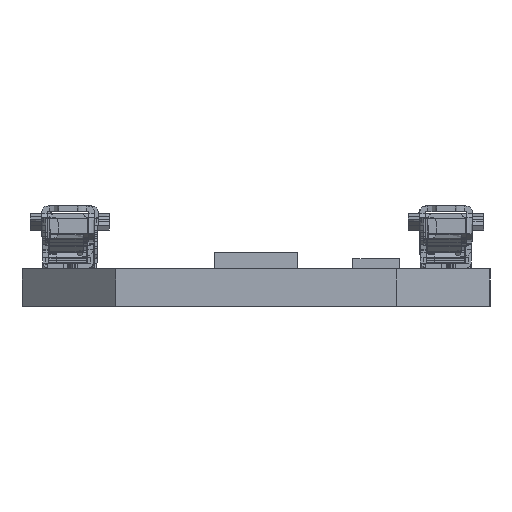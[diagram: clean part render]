
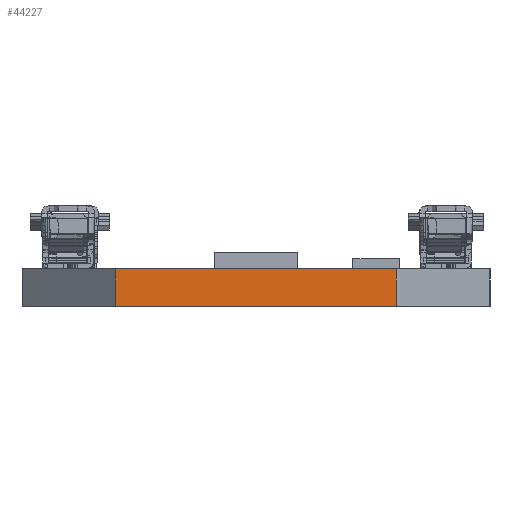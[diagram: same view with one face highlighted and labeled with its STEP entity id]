
A CAD part, left-side view. The second image highlights one B-rep face of the part: STEP entity #44227.
In plain terms, the highlighted planar face has unit normal (-1, 0, 0).
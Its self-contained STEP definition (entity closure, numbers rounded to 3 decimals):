
#2649 = LINE ( 'NONE', #66053, #23799 ) ;
#3577 = EDGE_CURVE ( 'NONE', #9305, #8764, #6561, .T. ) ;
#4914 = ORIENTED_EDGE ( 'NONE', *, *, #17841, .F. ) ;
#6217 = CARTESIAN_POINT ( 'NONE',  ( 0., 16., -1.6 ) ) ;
#6561 = LINE ( 'NONE', #81931, #32032 ) ;
#8764 = VERTEX_POINT ( 'NONE', #63085 ) ;
#9305 = VERTEX_POINT ( 'NONE', #6217 ) ;
#10263 = VECTOR ( 'NONE', #26932, 1000. ) ;
#10519 = PLANE ( 'NONE',  #76040 ) ;
#12756 = DIRECTION ( 'NONE',  ( 0., -1., 0. ) ) ;
#17675 = CARTESIAN_POINT ( 'NONE',  ( 0., 16., 0. ) ) ;
#17841 = EDGE_CURVE ( 'NONE', #22924, #65781, #48725, .T. ) ;
#22924 = VERTEX_POINT ( 'NONE', #57284 ) ;
#23799 = VECTOR ( 'NONE', #60650, 1000. ) ;
#26932 = DIRECTION ( 'NONE',  ( 0., 0., 1. ) ) ;
#27990 = ORIENTED_EDGE ( 'NONE', *, *, #3577, .T. ) ;
#28336 = CARTESIAN_POINT ( 'NONE',  ( 0., 16., -1.6 ) ) ;
#28843 = ORIENTED_EDGE ( 'NONE', *, *, #33352, .T. ) ;
#32032 = VECTOR ( 'NONE', #12756, 1000. ) ;
#33352 = EDGE_CURVE ( 'NONE', #8764, #65781, #2649, .T. ) ;
#40947 = CARTESIAN_POINT ( 'NONE',  ( 0., 4., 0. ) ) ;
#44227 = ADVANCED_FACE ( 'NONE', ( #48618 ), #10519, .F. ) ;
#48618 = FACE_OUTER_BOUND ( 'NONE', #66214, .T. ) ;
#48725 = LINE ( 'NONE', #17675, #67776 ) ;
#51866 = EDGE_CURVE ( 'NONE', #9305, #22924, #59242, .T. ) ;
#57284 = CARTESIAN_POINT ( 'NONE',  ( 0., 16., 0. ) ) ;
#58625 = ORIENTED_EDGE ( 'NONE', *, *, #51866, .F. ) ;
#59242 = LINE ( 'NONE', #65057, #10263 ) ;
#60650 = DIRECTION ( 'NONE',  ( 0., 0., 1. ) ) ;
#63085 = CARTESIAN_POINT ( 'NONE',  ( 0., 4., -1.6 ) ) ;
#65057 = CARTESIAN_POINT ( 'NONE',  ( 0., 16., -1.6 ) ) ;
#65781 = VERTEX_POINT ( 'NONE', #40947 ) ;
#66053 = CARTESIAN_POINT ( 'NONE',  ( 0., 4., -1.6 ) ) ;
#66214 = EDGE_LOOP ( 'NONE', ( #27990, #28843, #4914, #58625 ) ) ;
#66465 = DIRECTION ( 'NONE',  ( 0., 1., 0. ) ) ;
#67776 = VECTOR ( 'NONE', #67805, 1000. ) ;
#67805 = DIRECTION ( 'NONE',  ( 0., -1., 0. ) ) ;
#73899 = DIRECTION ( 'NONE',  ( 1., 0., 0. ) ) ;
#76040 = AXIS2_PLACEMENT_3D ( 'NONE', #28336, #73899, #66465 ) ;
#81931 = CARTESIAN_POINT ( 'NONE',  ( 0., 16., -1.6 ) ) ;
